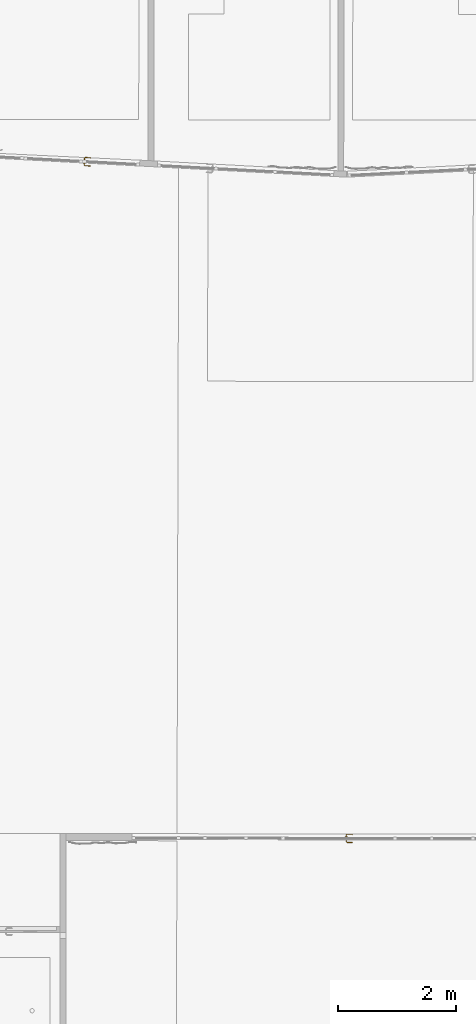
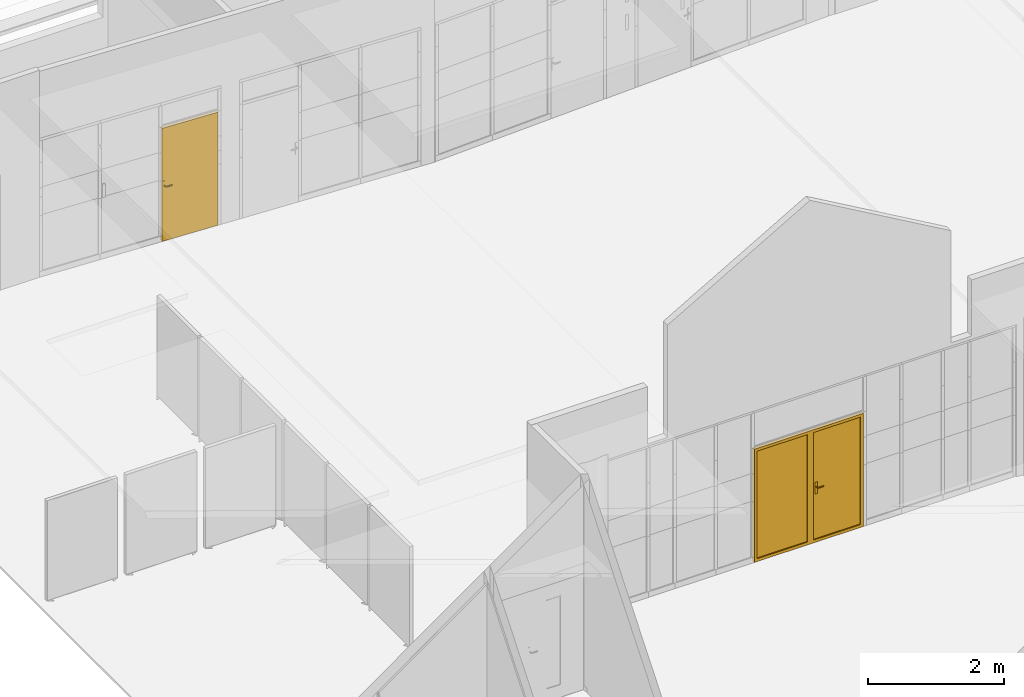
# One storey, part 30 of 43: 2 doors, 2 elements without a shape of their own.
"""IFC2X3 building model written with IfcOpenShell, lengths in metres."""

from ifc_helpers import new_model, entity, si_unit, converted_unit, derived_unit, direction, frame, origin, place, context, subcontext, project, spatial, faceted_brep, source, transform, mapped, material, material_list, type_object, type_shapes, element, aggregate, save


model = new_model("IFC2X3")

# Units and contexts
model_context = context("Model", 3, precision=1e-05, world=origin(), true_north=direction((6.123233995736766e-17, 1.0)))
body_context = subcontext(model_context, "Body", "Model", "MODEL_VIEW")
ifc_project = project(units=[si_unit("LENGTHUNIT", "METRE"), si_unit("AREAUNIT", "SQUARE_METRE"), converted_unit("PLANEANGLEUNIT", "DEGREE", entity("IfcPlaneAngleMeasure", 0.017453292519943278), si_unit("PLANEANGLEUNIT", "RADIAN"), dimensions=[0, 0, 0, 0, 0, 0, 0]), derived_unit("THERMALTRANSMITTANCEUNIT", [(si_unit("MASSUNIT", "GRAM", prefix="KILO"), 1), (si_unit("THERMODYNAMICTEMPERATUREUNIT", "KELVIN"), -1), (si_unit("TIMEUNIT", "SECOND"), -3)])], contexts=[model_context])

# Site, building, storey
site_placement = place(None, frame((1253.6752467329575, 2072.143113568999, 91.49999999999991), z_axis=(0.0, 0.0, 1.0), x_axis=(0.7237211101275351, 0.6900925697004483, 0.0)))
site = spatial("IfcSite", under=ifc_project, at=site_placement, Name="Surface", CompositionType="ELEMENT")
building_placement = place(site_placement, origin())
building = spatial("IfcBuilding", under=site, at=building_placement, CompositionType="ELEMENT")
storey_placement = place(building_placement, frame((0.0, 0.0, -4.629999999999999)))
storey = spatial("IfcBuildingStorey", under=building, at=storey_placement, Name="rez de rue -1.10m", CompositionType="ELEMENT", Elevation=-4.629999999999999)

# Curtain wall, door
curtain_wall_type = type_object("IfcCurtainWallType", Name="Mur-rideau:Menuiserie Int", PredefinedType="NOTDEFINED")
curtain_wall_1_placement = place(storey_placement, frame((0.0, 0.0, 4.629999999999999)))
curtain_wall_1 = element("IfcCurtainWall", 1, at=curtain_wall_1_placement, inside=storey, type_object=curtain_wall_type, Name="Mur-rideau:Menuiserie Int", ObjectType="Mur-rideau:Menuiserie Int")
ifc_material_1 = material(Name="Porte - Poignée")
ifc_material_2 = material(Name="Verre")
ifc_material_3 = material(Name="OMD_Aluminium Men Ext")
ifc_material_list_1 = material_list([ifc_material_1, ifc_material_2, ifc_material_3])
door_style_1 = type_object("IfcDoorStyle", Name="OMD_1PV 2V:PV 2V 90+90 ANTHRACITE", ConstructionType="NOTDEFINED", OperationType="NOTDEFINED", ParameterTakesPrecedence=False, Sizeable=False, material=ifc_material_list_1)
shared_shape_1 = source(origin(), body_context, "Body", "Brep", [
    faceted_brep([(-0.12109970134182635, 0.030000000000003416, 1.007780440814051), (-0.12515029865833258, 0.030000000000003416, 1.0077804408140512), (-0.12912500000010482, 0.030000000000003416, 1.0069999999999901), (-0.12912500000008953, 0.030000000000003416, 0.9930000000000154), (-0.12515029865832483, 0.030000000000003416, 0.9922195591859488), (-0.12109970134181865, 0.030000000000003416, 0.9922195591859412), (-0.11712500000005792, 0.030000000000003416, 0.9929999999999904), (-0.11712500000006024, 0.030000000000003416, 1.006999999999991), (-0.12912500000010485, 0.052485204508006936, 1.0069999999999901), (-0.1291250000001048, 0.05248520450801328, 0.9930000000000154), (-0.12515029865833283, 0.05413157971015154, 1.0077804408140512), (-0.1210997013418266, 0.05580939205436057, 1.007780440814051), (-0.13728609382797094, 0.0719957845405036, 1.007780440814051), (-0.13896390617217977, 0.06794518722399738, 1.0077804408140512), (-0.22233187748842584, 0.06794518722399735, 1.007780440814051), (-0.2240096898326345, 0.0719957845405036, 1.0077804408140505), (-0.23167395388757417, 0.06433152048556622, 1.0077804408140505), (-0.228809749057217, 0.06146731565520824, 1.007780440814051), (-0.11712500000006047, 0.05745576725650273, 1.006999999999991), (-0.11712500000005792, 0.05745576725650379, 0.9929999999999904), (-0.12109970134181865, 0.05580939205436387, 0.9922195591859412), (-0.12515029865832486, 0.05413157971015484, 0.9922195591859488), (-0.13896390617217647, 0.06794518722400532, 0.9922195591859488), (-0.13728609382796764, 0.07199578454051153, 0.9922195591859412), (-0.22400968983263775, 0.0719957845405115, 0.992219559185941), (-0.2223318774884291, 0.06794518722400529, 0.9922195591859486), (-0.22880974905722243, 0.06146731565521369, 0.9922195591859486), (-0.2316739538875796, 0.06433152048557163, 0.992219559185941), (-0.1406102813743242, 0.06397048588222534, 1.0069999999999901), (-0.14061028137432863, 0.06397048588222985, 0.9930000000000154), (-0.13563971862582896, 0.0759704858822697, 1.006999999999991), (-0.13563971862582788, 0.07597048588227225, 0.9929999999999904), (-0.18064789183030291, 0.06397048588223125, 1.0069999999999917), (-0.22068550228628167, 0.06397048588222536, 1.00699999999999), (-0.22068550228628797, 0.0639704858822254, 0.9930000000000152), (-0.18064789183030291, 0.06397048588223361, 0.9930000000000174), (-0.18064789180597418, 0.07012492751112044, 1.0078781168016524), (-0.18572557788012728, 0.07597048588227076, 1.0069999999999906), (-0.22565606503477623, 0.07597048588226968, 1.0069999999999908), (-0.1755702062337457, 0.07597048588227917, 0.9929999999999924), (-0.22565606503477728, 0.07597048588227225, 0.9929999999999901), (-0.18064789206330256, 0.07012492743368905, 0.9921218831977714), (-0.23448449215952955, 0.06714205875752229, 1.00699999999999), (-0.23448449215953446, 0.06714205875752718, 0.9929999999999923), (-0.22599921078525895, 0.05865677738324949, 0.9930000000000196), (-0.22599921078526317, 0.05865677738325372, 1.0069999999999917)], [[[0, 1, 2, 3, 4, 5, 6, 7]], [[8, 9, 3, 2]], [[1, 10, 8, 2]], [[1, 0, 11, 12, 13, 10]], [[14, 15, 16, 17]], [[7, 18, 11, 0]], [[18, 7, 6, 19]], [[6, 5, 20, 19]], [[5, 4, 21, 22, 23, 20]], [[24, 25, 26, 27]], [[4, 3, 9, 21]], [[28, 29, 9, 8]], [[8, 10, 13, 28]], [[18, 30, 12, 11]], [[31, 30, 18, 19]], [[19, 20, 23, 31]], [[21, 9, 29, 22]], [[29, 28, 32, 33, 34, 35]], [[36, 32, 13]], [[37, 38, 15]], [[37, 12, 30]], [[36, 12, 37]], [[14, 32, 36]], [[36, 15, 14]], [[28, 13, 32]], [[32, 14, 33]], [[12, 36, 13]], [[15, 36, 37]], [[30, 31, 39, 40, 38, 37]], [[23, 41, 39]], [[24, 39, 41]], [[39, 31, 23]], [[39, 24, 40]], [[22, 35, 41]], [[41, 23, 22]], [[41, 35, 25]], [[35, 22, 29]], [[34, 25, 35]], [[24, 41, 25]], [[17, 16, 42, 43, 27, 26, 44, 45]], [[45, 44, 34, 33]], [[33, 14, 17, 45]], [[15, 38, 42, 16]], [[43, 42, 38, 40]], [[24, 27, 43, 40]], [[34, 44, 26, 25]]]),
    faceted_brep([(-0.12515029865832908, -0.02999999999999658, 1.0077804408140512), (-0.12109970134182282, -0.02999999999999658, 1.0077804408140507), (-0.11712500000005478, -0.02999999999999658, 1.0069999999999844), (-0.11712500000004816, -0.02999999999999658, 0.9929999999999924), (-0.12109970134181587, -0.02999999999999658, 0.9922195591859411), (-0.12515029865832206, -0.02999999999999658, 0.9922195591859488), (-0.12912500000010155, -0.02999999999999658, 0.9930000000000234), (-0.12912500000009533, -0.02999999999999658, 1.006999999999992), (-0.12109970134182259, -0.05600457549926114, 1.0077804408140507), (-0.11712500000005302, -0.057650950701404, 1.00699999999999), (-0.12515029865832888, -0.05432676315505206, 1.0077804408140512), (-0.13882639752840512, -0.06800286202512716, 1.0077804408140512), (-0.13714858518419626, -0.07205345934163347, 1.0077804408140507), (-0.22398254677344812, -0.07205345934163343, 1.0077804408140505), (-0.22230473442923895, -0.06800286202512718, 1.007780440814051), (-0.2287826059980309, -0.06152499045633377, 1.007780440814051), (-0.23164681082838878, -0.06438919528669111, 1.0077804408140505), (-0.1291250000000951, -0.05268038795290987, 1.006999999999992), (-0.12912500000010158, -0.0526803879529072, 0.9930000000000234), (-0.12515029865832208, -0.05432676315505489, 0.9922195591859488), (-0.12109970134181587, -0.056004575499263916, 0.9922195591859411), (-0.13714858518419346, -0.07205345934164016, 0.9922195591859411), (-0.13882639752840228, -0.06800286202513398, 0.9922195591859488), (-0.22230473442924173, -0.06800286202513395, 0.9922195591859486), (-0.2239825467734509, -0.07205345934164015, 0.9922195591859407), (-0.23164681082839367, -0.06438919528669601, 0.9922195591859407), (-0.22878260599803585, -0.06152499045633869, 0.9922195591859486), (-0.11712500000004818, -0.05765095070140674, 0.9929999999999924), (-0.13550220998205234, -0.07602816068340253, 1.00699999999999), (-0.14047277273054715, -0.06402816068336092, 1.006999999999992), (-0.14047277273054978, -0.06402816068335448, 0.9930000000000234), (-0.13550220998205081, -0.07602816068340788, 0.9929999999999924), (-0.18056556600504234, -0.07018280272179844, 1.0078781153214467), (-0.17543269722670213, -0.07602816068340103, 1.0069999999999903), (-0.22562892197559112, -0.076028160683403, 1.0069999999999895), (-0.1805655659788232, -0.06402816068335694, 1.0069999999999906), (-0.22065835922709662, -0.06402816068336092, 1.0069999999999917), (-0.18056556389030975, -0.06402816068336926, 0.9930000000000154), (-0.22065835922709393, -0.06402816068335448, 0.9930000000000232), (-0.18056556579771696, -0.07018280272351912, 0.9921218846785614), (-0.18569842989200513, -0.07602816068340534, 0.9929999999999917), (-0.2256289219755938, -0.07602816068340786, 0.9929999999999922), (-0.2259720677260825, -0.05871445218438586, 0.9930000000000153), (-0.23445734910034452, -0.06719973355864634, 0.9929999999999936), (-0.2344573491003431, -0.06719973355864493, 1.0069999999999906), (-0.22597206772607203, -0.058714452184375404, 1.006999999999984)], [[[0, 1, 2, 3, 4, 5, 6, 7]], [[2, 1, 8, 9]], [[1, 0, 10, 11, 12, 8]], [[13, 14, 15, 16]], [[0, 7, 17, 10]], [[18, 17, 7, 6]], [[5, 19, 18, 6]], [[5, 4, 20, 21, 22, 19]], [[23, 24, 25, 26]], [[3, 27, 20, 4]], [[9, 27, 3, 2]], [[9, 8, 12, 28]], [[10, 17, 29, 11]], [[30, 29, 17, 18]], [[18, 19, 22, 30]], [[20, 27, 31, 21]], [[28, 31, 27, 9]], [[12, 32, 33]], [[13, 33, 32]], [[33, 28, 12]], [[33, 13, 34]], [[11, 35, 32]], [[32, 12, 11]], [[32, 35, 14]], [[35, 11, 29]], [[36, 14, 35]], [[13, 32, 14]], [[29, 30, 37, 38, 36, 35]], [[39, 37, 22]], [[40, 41, 24]], [[40, 21, 31]], [[39, 21, 40]], [[23, 37, 39]], [[39, 24, 23]], [[30, 22, 37]], [[37, 23, 38]], [[21, 39, 22]], [[24, 39, 40]], [[31, 28, 33, 34, 41, 40]], [[42, 26, 25, 43, 44, 16, 15, 45]], [[13, 16, 44, 34]], [[36, 45, 15, 14]], [[42, 45, 36, 38]], [[38, 23, 26, 42]], [[24, 41, 43, 25]], [[44, 43, 41, 34]]]),
    faceted_brep([(-0.14312500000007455, 0.025000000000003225, 1.0800000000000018), (-0.14312500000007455, 0.025000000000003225, 0.8700000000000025), (-0.10312500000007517, 0.025000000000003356, 0.8700000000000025), (-0.10312500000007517, 0.025000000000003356, 1.0800000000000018), (-0.1431250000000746, 0.030000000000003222, 1.0800000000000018), (-0.1031250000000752, 0.030000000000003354, 1.0800000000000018), (-0.1031250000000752, 0.030000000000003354, 0.8700000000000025), (-0.1431250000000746, 0.030000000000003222, 0.8700000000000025)], [[[0, 1, 2, 3]], [[4, 5, 6, 7]], [[3, 5, 4, 0]], [[2, 6, 5, 3]], [[1, 7, 6, 2]], [[0, 4, 7, 1]]]),
    faceted_brep([(-0.10312500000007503, -0.02999999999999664, 0.8700000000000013), (-0.10312500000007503, -0.02999999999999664, 1.0800000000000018), (-0.14312500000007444, -0.029999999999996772, 1.0800000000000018), (-0.14312500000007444, -0.029999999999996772, 0.8700000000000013), (-0.10312500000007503, -0.024999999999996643, 0.8700000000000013), (-0.14312500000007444, -0.024999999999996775, 0.8700000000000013), (-0.14312500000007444, -0.024999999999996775, 1.0800000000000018), (-0.10312500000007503, -0.024999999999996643, 1.0800000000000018)], [[[0, 1, 2, 3]], [[4, 5, 6, 7]], [[3, 5, 4, 0]], [[2, 6, 5, 3]], [[1, 7, 6, 2]], [[0, 4, 7, 1]]]),
    faceted_brep([(0.8781250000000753, 0.005000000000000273, 1.9849999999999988), (0.8781250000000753, 0.005000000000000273, 0.05), (0.0218749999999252, 0.0050000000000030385, 0.05), (0.021874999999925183, 0.0050000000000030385, 1.9849999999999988), (0.8781250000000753, -0.004999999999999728, 1.9849999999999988), (0.02187499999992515, -0.004999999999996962, 1.9849999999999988), (0.021874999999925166, -0.004999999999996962, 0.05), (0.8781250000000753, -0.004999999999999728, 0.05)], [[[0, 1, 2, 3]], [[4, 5, 6, 7]], [[1, 0, 4, 7]], [[2, 1, 7, 6]], [[3, 2, 6, 5]], [[0, 3, 5, 4]]]),
    faceted_brep([(-0.07812500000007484, 0.005000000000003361, 0.05), (-0.07812500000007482, 0.005000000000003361, 1.9849999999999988), (-0.07812500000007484, -0.004999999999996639, 1.9849999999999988), (-0.07812500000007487, -0.004999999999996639, 0.05), (-0.878125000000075, 0.005000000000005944, 0.05), (-0.878125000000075, -0.004999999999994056, 0.05), (-0.878125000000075, 0.005000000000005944, 1.9849999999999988), (-0.878125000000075, -0.004999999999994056, 1.9849999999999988)], [[[0, 1, 2, 3]], [[4, 0, 3, 5]], [[6, 4, 5, 7]], [[1, 6, 7, 2]], [[2, 7, 5, 3]], [[1, 0, 4, 6]]]),
    faceted_brep([(-0.8781250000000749, 0.025000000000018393, 1.9849999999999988), (-0.878125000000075, -0.02499999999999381, 1.9849999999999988), (-0.8781250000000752, -0.02499999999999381, 0.05), (-0.8781250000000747, 0.025000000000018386, 0.05000000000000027), (-0.9281250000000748, -0.024999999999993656, 0.0), (-0.02812500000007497, -0.024999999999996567, 0.0), (-0.028125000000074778, -0.024999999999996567, 2.034999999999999), (-0.9281250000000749, -0.024999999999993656, 2.034999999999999), (-0.07812500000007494, -0.024999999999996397, 1.9849999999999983), (-0.07812500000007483, -0.024999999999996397, 0.05000000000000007), (-0.07812500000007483, 0.025000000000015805, 0.05), (-0.0781250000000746, 0.025000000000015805, 1.9849999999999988), (-0.9281250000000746, 0.025000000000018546, 2.034999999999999), (-0.028125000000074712, 0.025000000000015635, 2.034999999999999), (-0.028125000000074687, 0.025000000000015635, 0.0), (-0.9281250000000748, 0.025000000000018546, 0.0)], [[[0, 1, 2, 3]], [[4, 5, 6, 7], [1, 8, 9, 2]], [[3, 2, 9, 10]], [[3, 10, 11, 0], [12, 13, 14, 15]], [[7, 12, 15, 4]], [[4, 15, 14, 5]], [[10, 9, 8, 11]], [[5, 14, 13, 6]], [[11, 8, 1, 0]], [[6, 13, 12, 7]]], outer=[[True], [True, False], [True], [False, True], [True], [True], [True], [True], [True], [True]]),
    faceted_brep([(0.02187499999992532, 0.025000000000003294, 1.9849999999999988), (0.02187499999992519, -0.02499999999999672, 1.9849999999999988), (0.021874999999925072, -0.02499999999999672, 0.05), (0.021874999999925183, 0.025000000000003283, 0.04999999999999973), (-0.028125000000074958, -0.024999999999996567, 0.0), (0.9281250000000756, -0.024999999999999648, 0.0), (0.9281250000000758, -0.024999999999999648, 2.0349999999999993), (-0.028125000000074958, -0.024999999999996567, 2.034999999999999), (0.8781250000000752, -0.024999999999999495, 1.9849999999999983), (0.8781250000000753, -0.024999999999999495, 0.05000000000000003), (0.8781250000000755, 0.025000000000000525, 0.05), (0.8781250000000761, 0.025000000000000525, 1.9849999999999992), (-0.028125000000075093, 0.025000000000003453, 2.0349999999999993), (0.9281250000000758, 0.025000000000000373, 2.034999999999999), (0.9281250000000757, 0.025000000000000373, 0.0), (-0.02812500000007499, 0.025000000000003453, 0.0)], [[[0, 1, 2, 3]], [[4, 5, 6, 7], [1, 8, 9, 2]], [[3, 2, 9, 10]], [[3, 10, 11, 0], [12, 13, 14, 15]], [[7, 12, 15, 4]], [[4, 15, 14, 5]], [[10, 9, 8, 11]], [[5, 14, 13, 6]], [[11, 8, 1, 0]], [[6, 13, 12, 7]]], outer=[[True], [True, False], [True], [False, True], [True], [True], [True], [True], [True], [True]]),
])
type_shapes(door_style_1, [shared_shape_1])
door_1_placement = place(curtain_wall_1_placement, frame((173.11103666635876, -0.5507947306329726, -4.629999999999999), z_axis=(0.0, 0.0, 1.0), x_axis=(-0.7227070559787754, 0.6911544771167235, 0.0)))
door_1 = element("IfcDoor", 2, at=door_1_placement, type_object=door_style_1, material=ifc_material_list_1, Name="OMD_1PV 2V:PV 2V 90+90 ANTHRACITE", ObjectType="OMD_1PV 2V:PV 2V 90+90 ANTHRACITE", OverallHeight=2.0349999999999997, OverallWidth=1.8562500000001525, context=body_context, shape_type="MappedRepresentation", body=[
    mapped(shared_shape_1, transform((0.0, 0.0, 0.0), scale=1.0)),
])
aggregate(curtain_wall_1, [door_1])

curtain_wall_2_placement = place(storey_placement, frame((0.0, 0.0, 4.629999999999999)))
curtain_wall_2 = element("IfcCurtainWall", 3, at=curtain_wall_2_placement, inside=storey, type_object=curtain_wall_type, Name="Mur-rideau:Menuiserie Int", ObjectType="Mur-rideau:Menuiserie Int")
ifc_material_4 = material(Name="Porte MR - Poignée")
ifc_material_5 = material(Name="Porte MR - Panneau")
ifc_material_list_2 = material_list([ifc_material_4, ifc_material_5])
door_style_2 = type_object("IfcDoorStyle", Name="OMD_1PP:GRZ_simple 2", ConstructionType="NOTDEFINED", OperationType="SINGLE_SWING_RIGHT", ParameterTakesPrecedence=False, Sizeable=False, material=ifc_material_list_2)
shared_shape_2 = source(origin(), body_context, "Body", "Brep", [
    faceted_brep([(-0.3161405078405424, 0.06714205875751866, 0.9929999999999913), (-0.31895104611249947, 0.06433152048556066, 0.9922195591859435), (-0.3266153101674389, 0.07199578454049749, 0.9922195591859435), (-0.32496893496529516, 0.07597048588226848, 0.9929999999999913), (-0.32181525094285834, 0.0614673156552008, 0.9922195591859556), (-0.3282931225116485, 0.06794518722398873, 0.9922195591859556), (-0.4295252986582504, 0.05580939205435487, 0.9922195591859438), (-0.41333890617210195, 0.07199578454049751, 0.9922195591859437), (-0.4116610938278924, 0.06794518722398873, 0.992219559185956), (-0.42547470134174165, 0.05413157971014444, 0.9922195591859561), (-0.4254747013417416, 0.029999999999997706, 0.9922195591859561), (-0.42952529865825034, 0.029999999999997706, 0.9922195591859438), (-0.32462578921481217, 0.058656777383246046, 0.9930000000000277), (-0.32993949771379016, 0.06397048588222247, 0.9930000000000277), (-0.4214999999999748, 0.05248520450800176, 1.0069999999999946), (-0.4254747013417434, 0.054131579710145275, 1.0077804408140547), (-0.42547470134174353, 0.029999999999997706, 1.007780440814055), (-0.42149999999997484, 0.029999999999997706, 1.0069999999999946), (-0.41166109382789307, 0.06794518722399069, 1.0077804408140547), (-0.41333890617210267, 0.07199578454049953, 1.0077804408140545), (-0.4295252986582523, 0.05580939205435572, 1.0077804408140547), (-0.42952529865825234, 0.029999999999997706, 1.0077804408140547), (-0.32181525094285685, 0.06146731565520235, 1.0077804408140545), (-0.31895104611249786, 0.06433152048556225, 1.0077804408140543), (-0.326615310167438, 0.0719957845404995, 1.0077804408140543), (-0.32829312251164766, 0.06794518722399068, 1.0077804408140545), (-0.433500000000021, 0.05745576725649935, 1.006999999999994), (-0.4335000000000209, 0.029999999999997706, 1.006999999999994), (-0.43350000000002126, 0.029999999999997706, 0.9929999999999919), (-0.43350000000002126, 0.05745576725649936, 0.9929999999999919), (-0.4100147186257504, 0.06397048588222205, 1.0069999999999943), (-0.41498528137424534, 0.0759704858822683, 1.0069999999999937), (-0.41498528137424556, 0.0759704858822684, 0.9929999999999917), (-0.3699771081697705, 0.06397048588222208, 1.0069999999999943), (-0.36997710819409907, 0.07012492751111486, 1.0078781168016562), (-0.3249689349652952, 0.07597048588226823, 1.0069999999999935), (-0.3648994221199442, 0.07597048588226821, 1.0069999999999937), (-0.3299394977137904, 0.06397048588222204, 1.0069999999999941), (-0.37505479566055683, 0.07597048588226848, 0.9929999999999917), (-0.32462578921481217, 0.05865677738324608, 1.0069999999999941), (-0.4214999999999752, 0.029999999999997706, 0.9930000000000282), (-0.4214999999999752, 0.052485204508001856, 0.9930000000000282), (-0.4100147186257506, 0.06397048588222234, 0.9930000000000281), (-0.3699771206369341, 0.06397048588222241, 0.993000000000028), (-0.3699771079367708, 0.07012492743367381, 0.992121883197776), (-0.3161405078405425, 0.06714205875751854, 1.0069999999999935)], [[[0, 1, 2, 3]], [[1, 4, 5, 2]], [[6, 7, 8, 9, 10, 11]], [[4, 12, 13, 5]], [[14, 15, 16, 17]], [[15, 18, 19, 20, 21, 16]], [[22, 23, 24, 25]], [[20, 26, 27, 21]], [[28, 27, 26, 29]], [[30, 18, 15, 14]], [[19, 31, 26, 20]], [[29, 26, 31, 32]], [[18, 33, 34]], [[24, 35, 36]], [[31, 19, 36]], [[36, 19, 34]], [[34, 33, 25]], [[25, 24, 34]], [[33, 18, 30]], [[37, 25, 33]], [[18, 34, 19]], [[36, 34, 24]], [[32, 31, 36, 35, 3, 38]], [[37, 13, 12, 39]], [[11, 10, 40, 17, 16, 21, 27, 28]], [[17, 40, 41, 14]], [[29, 6, 11, 28]], [[9, 41, 40, 10]], [[14, 41, 42, 30]], [[32, 7, 6, 29]], [[8, 42, 41, 9]], [[42, 43, 13, 37, 33, 30]], [[38, 44, 7]], [[44, 38, 2]], [[7, 32, 38]], [[3, 2, 38]], [[44, 43, 8]], [[8, 7, 44]], [[5, 43, 44]], [[42, 8, 43]], [[43, 5, 13]], [[5, 44, 2]], [[12, 4, 1, 0, 45, 23, 22, 39]], [[39, 22, 25, 37]], [[23, 45, 35, 24]], [[3, 35, 45, 0]]]),
    faceted_brep([(-0.4335000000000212, -0.030000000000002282, 1.0069999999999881), (-0.43350000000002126, -0.030000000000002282, 0.992999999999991), (-0.43350000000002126, -0.05765095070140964, 0.992999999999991), (-0.4335000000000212, -0.05765095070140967, 1.0069999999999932), (-0.41512279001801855, -0.07602816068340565, 0.9929999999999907), (-0.4151227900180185, -0.07602816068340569, 1.0069999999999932), (-0.3649265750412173, -0.07602816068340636, 0.992999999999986), (-0.3249960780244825, -0.07602816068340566, 0.9929999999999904), (-0.32499607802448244, -0.07602816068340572, 1.0069999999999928), (-0.37519230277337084, -0.07602816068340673, 1.006999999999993), (-0.3299666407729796, -0.06402816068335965, 0.993000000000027), (-0.32996664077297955, -0.0640281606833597, 1.0069999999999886), (-0.32465293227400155, -0.05871445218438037, 1.0069999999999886), (-0.3246529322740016, -0.058714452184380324, 0.9930000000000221), (-0.3218423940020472, -0.06152499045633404, 0.99221955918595), (-0.3283202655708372, -0.06800286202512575, 0.99221955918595), (-0.3189781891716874, -0.06438919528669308, 0.9922195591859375), (-0.3266424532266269, -0.07205345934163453, 0.9922195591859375), (-0.42547470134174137, -0.05432676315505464, 0.9922195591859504), (-0.41179860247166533, -0.06800286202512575, 0.9922195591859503), (-0.4134764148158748, -0.07205345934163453, 0.9922195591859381), (-0.4295252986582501, -0.056004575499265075, 0.9922195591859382), (-0.4295252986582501, -0.030000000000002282, 0.9922195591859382), (-0.4254747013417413, -0.030000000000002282, 0.9922195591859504), (-0.3161676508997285, -0.06719973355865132, 0.992999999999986), (-0.4295252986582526, -0.030000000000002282, 1.0077804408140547), (-0.4254747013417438, -0.030000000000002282, 1.007780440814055), (-0.4214999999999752, -0.030000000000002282, 1.006999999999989), (-0.42149999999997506, -0.030000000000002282, 0.9930000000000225), (-0.42952529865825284, -0.05600457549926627, 1.0077804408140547), (-0.41347641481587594, -0.07205345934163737, 1.0077804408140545), (-0.41179860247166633, -0.06800286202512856, 1.0077804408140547), (-0.42547470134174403, -0.05432676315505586, 1.007780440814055), (-0.3189781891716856, -0.06438919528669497, 1.007780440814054), (-0.3218423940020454, -0.061524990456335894, 1.0077804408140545), (-0.32832026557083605, -0.06800286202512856, 1.0077804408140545), (-0.3266424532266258, -0.07205345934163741, 1.007780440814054), (-0.4214999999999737, -0.052680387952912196, 1.0069999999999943), (-0.42149999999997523, -0.05268038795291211, 0.9930000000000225), (-0.41015222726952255, -0.06402816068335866, 1.0069999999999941), (-0.4101522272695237, -0.06402816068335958, 0.9930000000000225), (-0.3700594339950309, -0.07018280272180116, 1.0078781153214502), (-0.3700594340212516, -0.06402816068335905, 1.0069999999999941), (-0.37005943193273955, -0.06402816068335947, 0.9930000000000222), (-0.37005943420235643, -0.07018280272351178, 0.9921218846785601), (-0.31616765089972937, -0.06719973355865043, 1.0069999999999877)], [[[0, 1, 2, 3]], [[3, 2, 4, 5]], [[5, 4, 6, 7, 8, 9]], [[10, 11, 12, 13]], [[13, 14, 15, 10]], [[14, 16, 17, 15]], [[18, 19, 20, 21, 22, 23]], [[16, 24, 7, 17]], [[25, 26, 27, 28, 23, 22, 1, 0]], [[3, 29, 25, 0]], [[29, 30, 31, 32, 26, 25]], [[33, 34, 35, 36]], [[32, 37, 27, 26]], [[28, 27, 37, 38]], [[38, 18, 23, 28]], [[21, 2, 1, 22]], [[5, 30, 29, 3]], [[31, 39, 37, 32]], [[38, 37, 39, 40]], [[40, 19, 18, 38]], [[20, 4, 2, 21]], [[9, 41, 30]], [[41, 9, 36]], [[30, 5, 9]], [[8, 36, 9]], [[41, 42, 31]], [[31, 30, 41]], [[35, 42, 41]], [[39, 31, 42]], [[42, 35, 11]], [[35, 41, 36]], [[40, 39, 42, 11, 10, 43]], [[19, 43, 44]], [[17, 7, 6]], [[4, 20, 6]], [[6, 20, 44]], [[44, 43, 15]], [[15, 17, 44]], [[43, 19, 40]], [[10, 15, 43]], [[19, 44, 20]], [[6, 44, 17]], [[12, 34, 33, 45, 24, 16, 14, 13]], [[45, 33, 36, 8]], [[34, 12, 11, 35]], [[8, 7, 24, 45]]]),
    faceted_brep([(-0.4075000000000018, 0.02499999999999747, 1.0800000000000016), (-0.4075000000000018, 0.02499999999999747, 0.8700000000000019), (-0.4075000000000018, 0.02999999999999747, 0.8700000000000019), (-0.4075000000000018, 0.02999999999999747, 1.0800000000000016), (-0.41714723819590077, 0.024999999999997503, 0.8660039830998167), (-0.41714723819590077, 0.024999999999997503, 1.0839960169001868), (-0.4275000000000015, 0.024999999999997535, 1.085358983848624), (-0.43785276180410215, 0.024999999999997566, 1.0839960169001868), (-0.4475000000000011, 0.0249999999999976, 1.0800000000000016), (-0.4475000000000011, 0.0249999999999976, 0.870000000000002), (-0.43785276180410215, 0.024999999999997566, 0.8660039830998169), (-0.4275000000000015, 0.024999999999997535, 0.8646410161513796), (-0.41714723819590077, 0.029999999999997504, 1.0839960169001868), (-0.41714723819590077, 0.029999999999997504, 0.8660039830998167), (-0.4275000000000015, 0.029999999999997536, 0.8646410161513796), (-0.43785276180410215, 0.029999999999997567, 0.8660039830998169), (-0.44750000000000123, 0.0299999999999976, 0.870000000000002), (-0.4475000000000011, 0.0299999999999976, 1.0800000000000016), (-0.43785276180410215, 0.029999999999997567, 1.0839960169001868), (-0.4275000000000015, 0.029999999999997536, 1.085358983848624)], [[[0, 1, 2, 3]], [[4, 1, 0, 5, 6, 7, 8, 9, 10, 11]], [[12, 3, 2, 13, 14, 15, 16, 17, 18, 19]], [[3, 12, 5, 0]], [[5, 12, 19, 6]], [[19, 18, 7, 6]], [[18, 17, 8, 7]], [[9, 8, 17, 16]], [[16, 15, 10, 9]], [[10, 15, 14, 11]], [[14, 13, 4, 11]], [[13, 2, 1, 4]]]),
    faceted_brep([(-0.417147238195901, -0.03000000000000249, 0.8660039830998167), (-0.40750000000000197, -0.030000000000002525, 0.8700000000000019), (-0.4075000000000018, -0.030000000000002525, 1.0800000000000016), (-0.4171472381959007, -0.03000000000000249, 1.0839960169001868), (-0.4275000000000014, -0.030000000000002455, 1.085358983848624), (-0.43785276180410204, -0.030000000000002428, 1.0839960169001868), (-0.44750000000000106, -0.030000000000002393, 1.0800000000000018), (-0.44750000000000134, -0.030000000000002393, 0.870000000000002), (-0.4378527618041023, -0.030000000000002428, 0.8660039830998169), (-0.4275000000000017, -0.030000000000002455, 0.8646410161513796), (-0.41714723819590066, -0.025000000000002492, 1.0839960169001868), (-0.4075000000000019, -0.025000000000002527, 1.0800000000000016), (-0.4075000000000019, -0.025000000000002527, 0.8700000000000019), (-0.41714723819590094, -0.025000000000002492, 0.8660039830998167), (-0.42750000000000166, -0.02500000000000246, 0.8646410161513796), (-0.43785276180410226, -0.02500000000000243, 0.8660039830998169), (-0.4475000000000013, -0.025000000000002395, 0.8700000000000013), (-0.447500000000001, -0.025000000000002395, 1.0800000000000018), (-0.437852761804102, -0.02500000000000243, 1.0839960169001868), (-0.4275000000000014, -0.02500000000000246, 1.085358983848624)], [[[0, 1, 2, 3, 4, 5, 6, 7, 8, 9]], [[10, 11, 12, 13, 14, 15, 16, 17, 18, 19]], [[16, 15, 8, 7]], [[8, 15, 14, 9]], [[14, 13, 0, 9]], [[13, 12, 1, 0]], [[2, 1, 12, 11]], [[11, 10, 3, 2]], [[3, 10, 19, 4]], [[19, 18, 5, 4]], [[18, 17, 6, 5]], [[7, 6, 17, 16]]]),
    faceted_brep([(-0.46250000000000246, -0.025000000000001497, 2.0349999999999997), (-0.46250000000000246, -0.025000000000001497, 0.0), (0.46250000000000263, -0.02499999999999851, 0.0), (0.46250000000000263, -0.02499999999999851, 2.0349999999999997), (0.46250000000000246, 0.025000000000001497, 0.0), (0.46250000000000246, 0.025000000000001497, 2.0349999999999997), (-0.46250000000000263, 0.02499999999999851, 0.0), (-0.46250000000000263, 0.02499999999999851, 2.0349999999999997)], [[[0, 1, 2, 3]], [[2, 4, 5, 3]], [[1, 6, 4, 2]], [[0, 7, 6, 1]], [[7, 5, 4, 6]], [[3, 5, 7, 0]]]),
])
type_shapes(door_style_2, [shared_shape_2])
door_2_placement = place(curtain_wall_2_placement, frame((178.2119428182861, 10.4500158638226, -4.629999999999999), z_axis=(0.0, 0.0, 1.0), x_axis=(0.6855443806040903, -0.7280308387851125, 0.0)))
door_2 = element("IfcDoor", 4, at=door_2_placement, type_object=door_style_2, material=ifc_material_list_2, Name="OMD_1PP:GRZ_simple 2", ObjectType="OMD_1PP:GRZ_simple 2", OverallHeight=2.035, OverallWidth=1.08134598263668, context=body_context, shape_type="MappedRepresentation", body=[
    mapped(shared_shape_2, transform((0.0, 0.0, 0.0), scale=1.0)),
])
aggregate(curtain_wall_2, [door_2])

save(model, "model.ifc")
